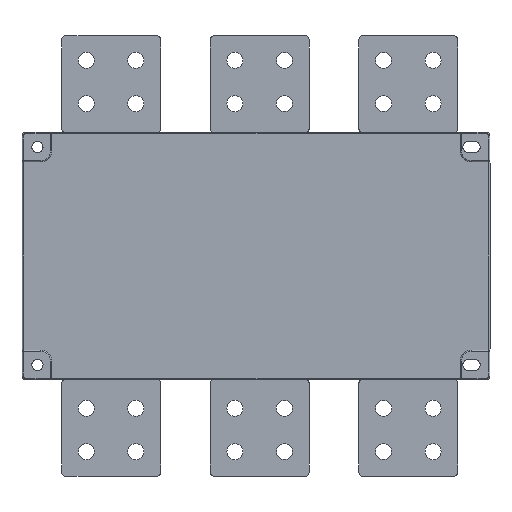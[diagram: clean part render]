
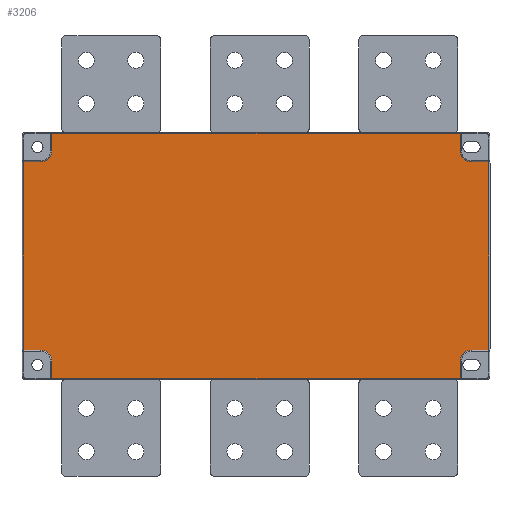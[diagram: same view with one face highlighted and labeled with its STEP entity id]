
A CAD part, front view. The second image highlights one B-rep face of the part: STEP entity #3206.
In plain terms, the highlighted planar face has unit normal (0, -1, 0).
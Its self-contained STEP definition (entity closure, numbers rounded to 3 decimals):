
#1=CARTESIAN_POINT('',(-174.,0.,-85.));
#2=DIRECTION('',(0.,-1.,0.));
#3=DIRECTION('',(1.,0.,0.));
#4=AXIS2_PLACEMENT_3D('',#1,#2,#3);
#6=DIRECTION('',(-1.,0.,0.));
#7=VECTOR('',#6,14.);
#8=CARTESIAN_POINT('',(-174.,0.,-76.));
#9=LINE('',#8,#7);
#10=CARTESIAN_POINT('',(-174.,0.,85.));
#11=DIRECTION('',(0.,-1.,0.));
#12=DIRECTION('',(0.,0.,-1.));
#13=AXIS2_PLACEMENT_3D('',#10,#11,#12);
#15=DIRECTION('',(0.,0.,1.));
#16=VECTOR('',#15,14.);
#17=CARTESIAN_POINT('',(-165.,0.,85.));
#18=LINE('',#17,#16);
#19=CARTESIAN_POINT('',(174.,0.,85.));
#20=DIRECTION('',(0.,-1.,0.));
#21=DIRECTION('',(-1.,0.,0.));
#22=AXIS2_PLACEMENT_3D('',#19,#20,#21);
#24=DIRECTION('',(1.,0.,0.));
#25=VECTOR('',#24,14.);
#26=CARTESIAN_POINT('',(174.,0.,76.));
#27=LINE('',#26,#25);
#28=CARTESIAN_POINT('',(174.,0.,-85.));
#29=DIRECTION('',(0.,-1.,0.));
#30=DIRECTION('',(0.,0.,1.));
#31=AXIS2_PLACEMENT_3D('',#28,#29,#30);
#33=DIRECTION('',(0.,0.,-1.));
#34=VECTOR('',#33,14.);
#35=CARTESIAN_POINT('',(165.,0.,-85.));
#36=LINE('',#35,#34);
#41=DIRECTION('',(1.,0.,0.));
#42=VECTOR('',#41,330.);
#43=CARTESIAN_POINT('',(-165.,0.,-99.));
#44=LINE('',#43,#42);
#1121=DIRECTION('',(0.,0.,1.));
#1122=VECTOR('',#1121,152.);
#1123=CARTESIAN_POINT('',(188.,0.,-76.));
#1124=LINE('',#1123,#1122);
#1141=DIRECTION('',(1.,0.,0.));
#1142=VECTOR('',#1141,14.);
#1143=CARTESIAN_POINT('',(174.,0.,-76.));
#1144=LINE('',#1143,#1142);
#1435=DIRECTION('',(0.,0.,1.));
#1436=VECTOR('',#1435,14.);
#1437=CARTESIAN_POINT('',(165.,0.,85.));
#1438=LINE('',#1437,#1436);
#1459=DIRECTION('',(-1.,0.,0.));
#1460=VECTOR('',#1459,330.);
#1461=CARTESIAN_POINT('',(165.,0.,99.));
#1462=LINE('',#1461,#1460);
#1533=DIRECTION('',(-1.,0.,0.));
#1534=VECTOR('',#1533,14.);
#1535=CARTESIAN_POINT('',(-174.,0.,76.));
#1536=LINE('',#1535,#1534);
#1557=DIRECTION('',(0.,0.,-1.));
#1558=VECTOR('',#1557,152.);
#1559=CARTESIAN_POINT('',(-188.,0.,76.));
#1560=LINE('',#1559,#1558);
#1631=DIRECTION('',(0.,0.,-1.));
#1632=VECTOR('',#1631,14.);
#1633=CARTESIAN_POINT('',(-165.,0.,-85.));
#1634=LINE('',#1633,#1632);
#2465=CARTESIAN_POINT('',(-165.,0.,-99.));
#2466=CARTESIAN_POINT('',(165.,0.,-99.));
#2467=VERTEX_POINT('',#2465);
#2468=VERTEX_POINT('',#2466);
#2469=CARTESIAN_POINT('',(-165.,0.,-85.));
#2470=VERTEX_POINT('',#2469);
#2471=CARTESIAN_POINT('',(-174.,0.,-76.));
#2472=VERTEX_POINT('',#2471);
#2473=CARTESIAN_POINT('',(-188.,0.,-76.));
#2474=VERTEX_POINT('',#2473);
#2475=CARTESIAN_POINT('',(-188.,0.,76.));
#2476=VERTEX_POINT('',#2475);
#2477=CARTESIAN_POINT('',(-174.,0.,76.));
#2478=VERTEX_POINT('',#2477);
#2479=CARTESIAN_POINT('',(-165.,0.,85.));
#2480=VERTEX_POINT('',#2479);
#2481=CARTESIAN_POINT('',(-165.,0.,99.));
#2482=VERTEX_POINT('',#2481);
#2483=CARTESIAN_POINT('',(165.,0.,99.));
#2484=VERTEX_POINT('',#2483);
#2485=CARTESIAN_POINT('',(165.,0.,85.));
#2486=VERTEX_POINT('',#2485);
#2487=CARTESIAN_POINT('',(174.,0.,76.));
#2488=VERTEX_POINT('',#2487);
#2489=CARTESIAN_POINT('',(188.,0.,76.));
#2490=VERTEX_POINT('',#2489);
#2491=CARTESIAN_POINT('',(188.,0.,-76.));
#2492=VERTEX_POINT('',#2491);
#2493=CARTESIAN_POINT('',(174.,0.,-76.));
#2494=VERTEX_POINT('',#2493);
#2495=CARTESIAN_POINT('',(165.,0.,-85.));
#2496=VERTEX_POINT('',#2495);
#3167=CARTESIAN_POINT('',(0.,0.,0.));
#3168=DIRECTION('',(0.,1.,0.));
#3169=DIRECTION('',(1.,0.,0.));
#3170=AXIS2_PLACEMENT_3D('',#3167,#3168,#3169);
#3171=PLANE('',#3170);
#3173=ORIENTED_EDGE('',*,*,#3172,.F.);
#3175=ORIENTED_EDGE('',*,*,#3174,.F.);
#3177=ORIENTED_EDGE('',*,*,#3176,.T.);
#3179=ORIENTED_EDGE('',*,*,#3178,.T.);
#3181=ORIENTED_EDGE('',*,*,#3180,.F.);
#3183=ORIENTED_EDGE('',*,*,#3182,.F.);
#3185=ORIENTED_EDGE('',*,*,#3184,.T.);
#3187=ORIENTED_EDGE('',*,*,#3186,.T.);
#3189=ORIENTED_EDGE('',*,*,#3188,.F.);
#3191=ORIENTED_EDGE('',*,*,#3190,.F.);
#3193=ORIENTED_EDGE('',*,*,#3192,.T.);
#3195=ORIENTED_EDGE('',*,*,#3194,.T.);
#3197=ORIENTED_EDGE('',*,*,#3196,.F.);
#3199=ORIENTED_EDGE('',*,*,#3198,.F.);
#3201=ORIENTED_EDGE('',*,*,#3200,.T.);
#3203=ORIENTED_EDGE('',*,*,#3202,.T.);
#3204=EDGE_LOOP('',(#3173,#3175,#3177,#3179,#3181,#3183,#3185,#3187,#3189,#3191,
#3193,#3195,#3197,#3199,#3201,#3203));
#3205=FACE_OUTER_BOUND('',#3204,.F.);
#5=CIRCLE('',#4,9.);
#14=CIRCLE('',#13,9.);
#23=CIRCLE('',#22,9.);
#32=CIRCLE('',#31,9.);
#3172=EDGE_CURVE('',#2467,#2468,#44,.T.);
#3174=EDGE_CURVE('',#2470,#2467,#1634,.T.);
#3176=EDGE_CURVE('',#2470,#2472,#5,.T.);
#3178=EDGE_CURVE('',#2472,#2474,#9,.T.);
#3180=EDGE_CURVE('',#2476,#2474,#1560,.T.);
#3182=EDGE_CURVE('',#2478,#2476,#1536,.T.);
#3184=EDGE_CURVE('',#2478,#2480,#14,.T.);
#3186=EDGE_CURVE('',#2480,#2482,#18,.T.);
#3188=EDGE_CURVE('',#2484,#2482,#1462,.T.);
#3190=EDGE_CURVE('',#2486,#2484,#1438,.T.);
#3192=EDGE_CURVE('',#2486,#2488,#23,.T.);
#3194=EDGE_CURVE('',#2488,#2490,#27,.T.);
#3196=EDGE_CURVE('',#2492,#2490,#1124,.T.);
#3198=EDGE_CURVE('',#2494,#2492,#1144,.T.);
#3200=EDGE_CURVE('',#2494,#2496,#32,.T.);
#3202=EDGE_CURVE('',#2496,#2468,#36,.T.);
#3206=ADVANCED_FACE('',(#3205),#3171,.F.);
